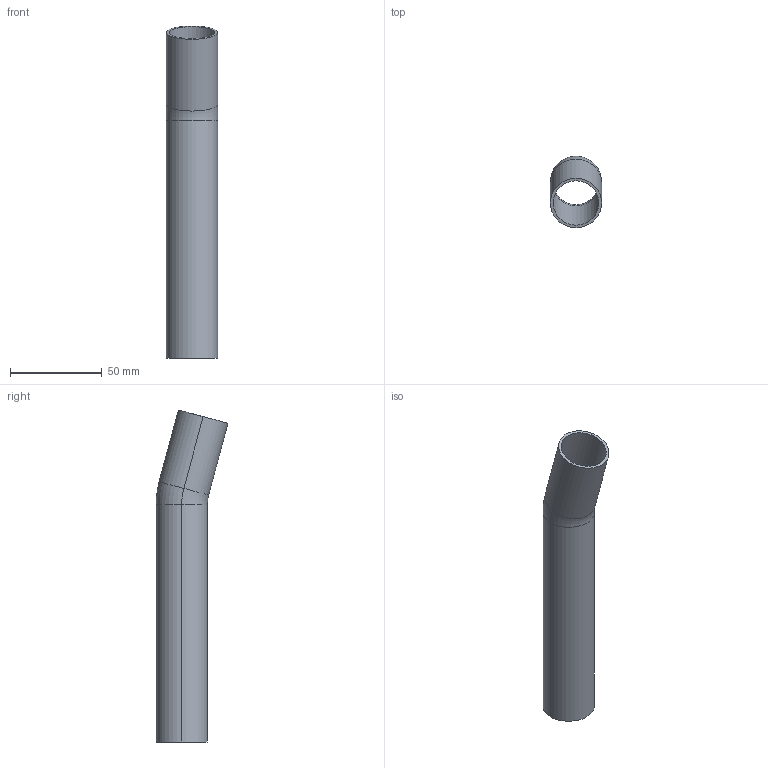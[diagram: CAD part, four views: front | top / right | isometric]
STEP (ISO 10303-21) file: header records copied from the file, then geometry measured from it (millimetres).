
FILE_DESCRIPTION(('OneSpaceDesigner STEP Export'),'2;1');
FILE_NAME('R2722 28x28.stp','2010-06-10T12:46:41',(''),(''),'OneSpace Designer STEP processor for AP214 (Solid Model)','OneSpace Modeling 15.00A 14-Mar-2007 (C) CoCreate Software GmbH','');
FILE_SCHEMA(('AUTOMOTIVE_DESIGN { 1 0 10303 214 1 1 1 1 }'));
Length unit declared in the file: millimetre
Products named in the file (2): R2722_28x28
Assembly tree (1 placements, depth 2):
  R2722_28x28
    R2722_28x28
Bounding box: 28 x 39.17 x 181.09 mm (x, y, z)
Volume: 22346.8 mm3; surface area: 30045.5 mm2
Topology: 1 solids, 1 shells, 14 faces, 28 edges, 16 vertices
Faces by surface type: cylinder 8, torus 4, plane 2
Entity records: 357 total; most frequent: DIRECTION 56, ORIENTED_EDGE 56, CARTESIAN_POINT 48, EDGE_CURVE 28, AXIS2_PLACEMENT_3D 24, VERTEX_POINT 16, EDGE_LOOP 16, CIRCLE 14
